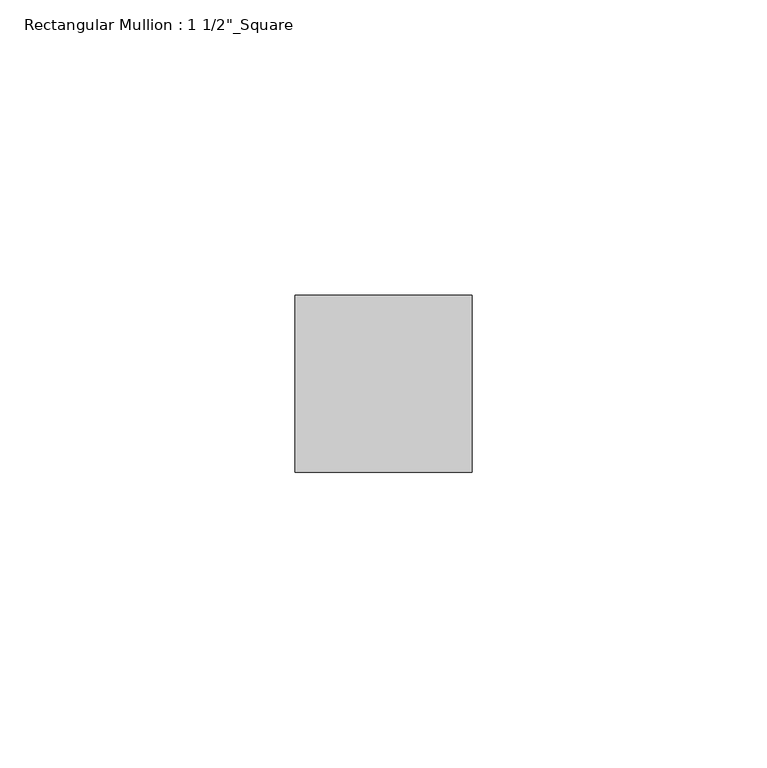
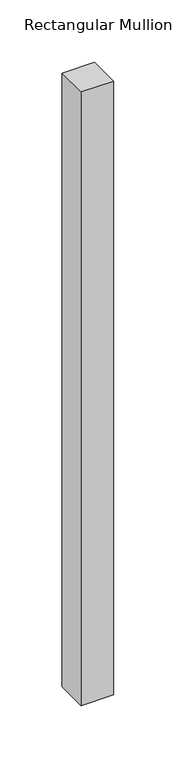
"""IFC4 building model written with IfcOpenShell, lengths in millimetres: member geometry."""

from ifc_helpers import new_model, si_unit, frame, origin, place, context, project, spatial, polyline, outline, extrude, source, transform, mapped, element, save


def member_79e8dab3(model_context):
    return source(origin(), model_context, "Body", "SweptSolid", [
        extrude(outline(polyline([(0.0, 2.5), (0.0, -27.5), (-30.0, -27.5), (-30.0, 2.5), (0.0, 2.5)])), frame((0.0, 0.0, -600.0), z_axis=(0.0, 0.0, 1.0), x_axis=(1.0, 0.0, 0.0)), (0.0, 0.0, 1.0), 600.0),
    ])


if __name__ == "__main__":
    model = new_model("IFC4")
    model_context = context("Model", 3, world=origin())
    ifc_project = project(units=[si_unit("LENGTHUNIT", "METRE", prefix="MILLI")], contexts=[model_context])
    site = spatial("IfcSite", under=ifc_project)
    building = spatial("IfcBuilding", under=site)
    placement = place(None, origin())
    member_shape = member_79e8dab3(model_context)
    element("IfcMember", 1, ObjectType="Rectangular Mullion : 1 1/2\"_Square", at=placement, inside=building, context=model_context, shape_type="MappedRepresentation", body=[
        mapped(member_shape, transform((0.0, 0.0, 0.0), x_axis=(1.0, 0.0, 0.0), y_axis=(0.0, 1.0, 0.0), z_axis=(0.0, 0.0, 1.0))),
    ])
    save(model, "model.ifc")
